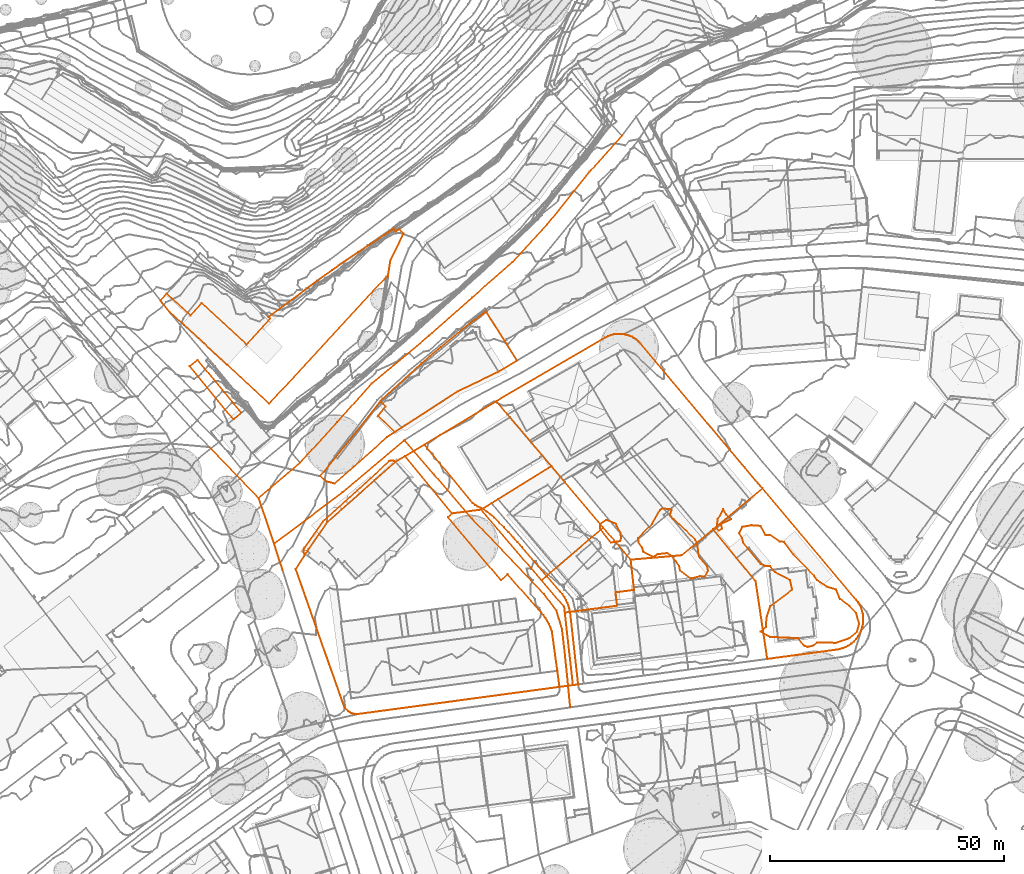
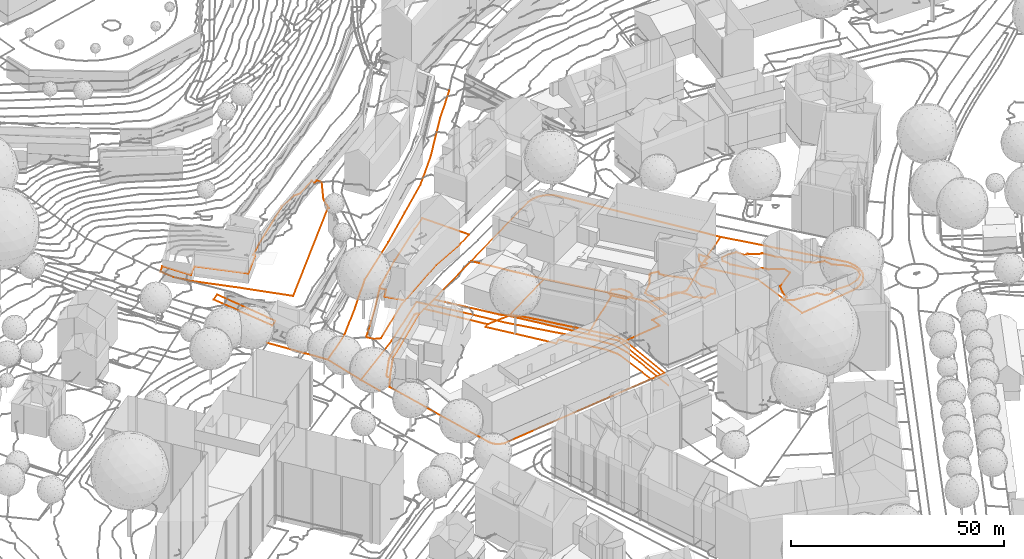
# Not in any storey, part 189 of 494: 23 proxies.
"""IFC2X3 model written with IfcOpenShell, lengths in metres."""

from ifc_helpers import new_model, entity, si_unit, frame, origin_with_axes, place, context, subcontext, project, element, save


model = new_model("IFC2X3")

# Units and contexts
model_context = context("Model", 3, precision=1e-05, world=origin_with_axes())
body_context = subcontext(model_context, "Body", "Model", "MODEL_VIEW")
ifc_project = project(units=[si_unit("AREAUNIT", "SQUARE_METRE"), si_unit("LENGTHUNIT", "METRE")], contexts=[model_context])

# Proxies
proxy_1_placement = place(None, frame((448.7407320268, 214.9587366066, 505.116), z_axis=(0.0, 0.0, 1.0), x_axis=(1.0, 0.0, 0.0)))
element("IfcBuildingElementProxy", 1, at=proxy_1_placement, Name="Road 91", ObjectType="NOTDEFINED", context=body_context, shape_type="GeometricCurveSet", body=[
    entity("IfcGeometricCurveSet", [entity("IfcPolyline", [entity("IfcCartesianPoint", [0.0, 0.0, 0.0]), entity("IfcCartesianPoint", [14.6459999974, 10.9769996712, -0.705]), entity("IfcCartesianPoint", [27.8619999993, 22.1369993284, -0.898])])]),
])
proxy_2_placement = place(None, frame((476.602732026, 237.095735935, 504.218), z_axis=(0.0, 0.0, 1.0), x_axis=(1.0, 0.0, 0.0)))
element("IfcBuildingElementProxy", 2, at=proxy_2_placement, Name="Road 94", ObjectType="NOTDEFINED", context=body_context, shape_type="GeometricCurveSet", body=[
    entity("IfcGeometricCurveSet", [entity("IfcPolyline", [entity("IfcCartesianPoint", [35.3889999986, -57.1219982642, -1.712]), entity("IfcCartesianPoint", [34.2149999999, -45.3749986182, -1.699]), entity("IfcCartesianPoint", [33.6279999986, -40.3819987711, -1.655]), entity("IfcCartesianPoint", [32.4529999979, -36.4169988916, -1.564]), entity("IfcCartesianPoint", [29.8090000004, -32.8919989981, -1.482]), entity("IfcCartesianPoint", [14.3900000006, -16.739999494, -0.77]), entity("IfcCartesianPoint", [6.3139999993, -7.3419997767, -0.204]), entity("IfcCartesianPoint", [0.0, 0.0, 0.0])])]),
])
proxy_3_placement = place(None, frame((434.9857320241, 235.5647359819, 508.106), z_axis=(0.0, 0.0, 1.0), x_axis=(1.0, 0.0, 0.0)))
element("IfcBuildingElementProxy", 3, at=proxy_3_placement, Name="Road 110", ObjectType="NOTDEFINED", context=body_context, shape_type="GeometricCurveSet", body=[
    entity("IfcGeometricCurveSet", [entity("IfcPolyline", [entity("IfcCartesianPoint", [0.0, 0.0, 0.0]), entity("IfcCartesianPoint", [10.4830000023, -10.8409996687, -1.99])])]),
])
proxy_4_placement = place(None, frame((454.2827320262, 232.2497360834, 505.514), z_axis=(0.0, 0.0, 1.0), x_axis=(1.0, 0.0, 0.0)))
element("IfcBuildingElementProxy", 4, at=proxy_4_placement, Name="Road 111", ObjectType="NOTDEFINED", context=body_context, shape_type="GeometricCurveSet", body=[
    entity("IfcGeometricCurveSet", [entity("IfcPolyline", [entity("IfcCartesianPoint", [0.0, 0.0, 0.0]), entity("IfcCartesianPoint", [7.9290000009, 8.6649997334, -0.151]), entity("IfcCartesianPoint", [15.2709999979, 16.8869994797, 0.331]), entity("IfcCartesianPoint", [27.6059999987, 27.1659991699, 0.497]), entity("IfcCartesianPoint", [36.7100000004, 35.2439989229, 0.844]), entity("IfcCartesianPoint", [45.3739999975, 42.8789986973, 1.187]), entity("IfcCartesianPoint", [52.7159999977, 50.8089984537, 1.844]), entity("IfcCartesianPoint", [61.8209999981, 62.1159981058, 2.804]), entity("IfcCartesianPoint", [68.7629999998, 69.8619978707, 3.602])])]),
])
proxy_5_placement = place(None, frame((448.7407320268, 214.9587366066, 505.116), z_axis=(0.0, 0.0, 1.0), x_axis=(1.0, 0.0, 0.0)))
element("IfcBuildingElementProxy", 5, at=proxy_5_placement, Name="Road 135", ObjectType="NOTDEFINED", context=body_context, shape_type="GeometricCurveSet", body=[
    entity("IfcGeometricCurveSet", [entity("IfcPolyline", [entity("IfcCartesianPoint", [0.0, 0.0, 0.0]), entity("IfcCartesianPoint", [1.8269999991, -5.6789998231, -0.308])])]),
])
proxy_6_placement = place(None, frame((445.4687320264, 224.7237363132, 506.116), z_axis=(0.0, 0.0, 1.0), x_axis=(1.0, 0.0, 0.0)))
element("IfcBuildingElementProxy", 6, at=proxy_6_placement, Name="Road 161", ObjectType="NOTDEFINED", context=body_context, shape_type="GeometricCurveSet", body=[
    entity("IfcGeometricCurveSet", [entity("IfcPolyline", [entity("IfcCartesianPoint", [0.0, 0.0, 0.0]), entity("IfcCartesianPoint", [3.2720000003, -9.7649997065, -1.0])])]),
])
proxy_7_placement = place(None, frame((445.4687320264, 224.7237363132, 506.116), z_axis=(0.0, 0.0, 1.0), x_axis=(1.0, 0.0, 0.0)))
element("IfcBuildingElementProxy", 7, at=proxy_7_placement, Name="Road 171", ObjectType="NOTDEFINED", context=body_context, shape_type="GeometricCurveSet", body=[
    entity("IfcGeometricCurveSet", [entity("IfcPolyline", [entity("IfcCartesianPoint", [0.0, 0.0, 0.0]), entity("IfcCartesianPoint", [8.8139999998, 7.5259997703, -0.602])])]),
])
proxy_8_placement = place(None, frame((424.4657320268, 266.9047160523, 513.1289780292), z_axis=(0.0, 0.0, 1.0), x_axis=(1.0, 0.0, 0.0)))
element("IfcBuildingElementProxy", 8, at=proxy_8_placement, Name="Roads Outline 72", ObjectType="NOTDEFINED", context=body_context, shape_type="GeometricCurveSet", body=[
    entity("IfcGeometricCurveSet", [entity("IfcPolyline", [entity("IfcCartesianPoint", [0.0, 0.0, 0.0]), entity("IfcCartesianPoint", [1.3109999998, 1.4140000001, 0.2332637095]), entity("IfcCartesianPoint", [6.3939999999, -3.2179999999, -1.3073714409]), entity("IfcCartesianPoint", [8.7999999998, -0.5769999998, -1.2514319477]), entity("IfcCartesianPoint", [18.3819999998, -9.4069999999, -1.2936431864]), entity("IfcCartesianPoint", [23.432, -3.9299999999, -1.1832163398]), entity("IfcCartesianPoint", [23.0689999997, -3.5899999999, -1.1790533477]), entity("IfcCartesianPoint", [23.216, -3.433, -1.1892130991]), entity("IfcCartesianPoint", [25.9779999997, -1.362, -0.1848330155]), entity("IfcCartesianPoint", [36.6229999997, 6.5180000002, 1.8596743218]), entity("IfcCartesianPoint", [42.216, 10.3400000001, 0.717073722]), entity("IfcCartesianPoint", [44.733, 11.9920000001, -0.5511322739]), entity("IfcCartesianPoint", [49.8369999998, 15.3030000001, -0.6807819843]), entity("IfcCartesianPoint", [50.2659999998, 14.6870000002, -1.1928311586]), entity("IfcCartesianPoint", [51.0959999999, 15.2650000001, -1.0383169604]), entity("IfcCartesianPoint", [51.9180000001, 14.2340000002, -1.1671433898]), entity("IfcCartesianPoint", [49.1299999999, 8.6170000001, -1.6400867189]), entity("IfcCartesianPoint", [48.73, 6.1830000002, -1.8383054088]), entity("IfcCartesianPoint", [48.5819999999, 5.0960000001, -1.984731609]), entity("IfcCartesianPoint", [48.3119999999, 5.1330000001, -1.8934868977]), entity("IfcCartesianPoint", [23.196, -22.0729999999, -1.7275991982]), entity("IfcCartesianPoint", [14.2549999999, -13.7509999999, -1.4039632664]), entity("IfcCartesianPoint", [5.0439999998, -5.264, -1.2292350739]), entity("IfcCartesianPoint", [2.0559999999, -2.632, -0.7227015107]), entity("IfcCartesianPoint", [0.0, 0.0, 0.0])])]),
])
proxy_9_placement = place(None, frame((458.5287320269, 229.3427160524, 505.1552135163), z_axis=(0.0, 0.0, 1.0), x_axis=(1.0, 0.0, 0.0)))
element("IfcBuildingElementProxy", 9, at=proxy_9_placement, Name="Roads Outline 87", ObjectType="NOTDEFINED", context=body_context, shape_type="GeometricCurveSet", body=[
    entity("IfcGeometricCurveSet", [entity("IfcPolyline", [entity("IfcCartesianPoint", [0.0, 0.0, 0.0]), entity("IfcCartesianPoint", [8.2289999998, 10.051, -0.4648052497]), entity("IfcCartesianPoint", [12.9269999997, 16.0160000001, -0.1523674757]), entity("IfcCartesianPoint", [13.1009999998, 15.845, -0.2159293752]), entity("IfcCartesianPoint", [14.0329999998, 14.9310000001, -0.3332706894]), entity("IfcCartesianPoint", [12.392, 12.8999999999, -0.5553334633]), entity("IfcCartesianPoint", [15.9019999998, 9.415, -0.7341274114]), entity("IfcCartesianPoint", [15.9179999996, 9.402, -0.7350810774]), entity("IfcCartesianPoint", [14.3879999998, 8.4110000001, -0.7262584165]), entity("IfcCartesianPoint", [3.1299999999, -1.53, -0.4365334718]), entity("IfcCartesianPoint", [1.4199999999, -1.1100000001, -0.3133147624]), entity("IfcCartesianPoint", [0.0, 0.0, 0.0])])]),
])
proxy_10_placement = place(None, frame((476.7267320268, 233.6337160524, 504.3167125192), z_axis=(0.0, 0.0, 1.0), x_axis=(1.0, 0.0, 0.0)))
element("IfcBuildingElementProxy", 10, at=proxy_10_placement, Name="Roads Outline 100", ObjectType="NOTDEFINED", context=body_context, shape_type="GeometricCurveSet", body=[
    entity("IfcGeometricCurveSet", [entity("IfcPolyline", [entity("IfcCartesianPoint", [0.0, 0.0, 0.0]), entity("IfcCartesianPoint", [4.1289999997, 2.497, -0.292827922]), entity("IfcCartesianPoint", [14.4410000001, -10.007, -0.5913579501]), entity("IfcCartesianPoint", [14.9279999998, -10.395, -0.6326985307]), entity("IfcCartesianPoint", [15.4539999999, -10.7279999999, -0.6861996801]), entity("IfcCartesianPoint", [16.0049999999, -10.9979999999, -0.7344786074]), entity("IfcCartesianPoint", [16.5819999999, -11.2069999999, -0.7762041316]), entity("IfcCartesianPoint", [17.4270000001, -11.824, -0.8344488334]), entity("IfcCartesianPoint", [18.2480000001, -12.4720000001, -0.8784889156]), entity("IfcCartesianPoint", [19.0439999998, -13.1499999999, -0.9256888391]), entity("IfcCartesianPoint", [20.077, -14.139, -1.0002924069]), entity("IfcCartesianPoint", [21.0860000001, -15.1510000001, -1.0653952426]), entity("IfcCartesianPoint", [22.1340000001, -16.254, -1.1199820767]), entity("IfcCartesianPoint", [23.1540000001, -17.3829999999, -1.1740386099]), entity("IfcCartesianPoint", [24.051, -18.3899999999, -1.2144240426]), entity("IfcCartesianPoint", [24.9440000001, -19.402, -1.2532145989]), entity("IfcCartesianPoint", [33.125, -28.8929999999, -1.4117132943]), entity("IfcCartesianPoint", [33.594, -29.4720000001, -1.4165436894]), entity("IfcCartesianPoint", [34.014, -30.088, -1.3941053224]), entity("IfcCartesianPoint", [34.3810000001, -30.737, -1.3969771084]), entity("IfcCartesianPoint", [34.6919999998, -31.4139999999, -1.4123003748]), entity("IfcCartesianPoint", [34.9249999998, -32.051, -1.4230467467]), entity("IfcCartesianPoint", [35.108, -32.7039999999, -1.4033383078]), entity("IfcCartesianPoint", [35.2409999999, -33.3699999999, -1.3973907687]), entity("IfcCartesianPoint", [35.3229999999, -34.0430000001, -1.402489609]), entity("IfcCartesianPoint", [36.963, -48.7309999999, -1.8208451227]), entity("IfcCartesianPoint", [35.8479999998, -48.8810000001, -1.8107088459]), entity("IfcCartesianPoint", [32.9789999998, -49.267, -1.8154554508]), entity("IfcCartesianPoint", [32.5090000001, -45.8289999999, -1.7085053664]), entity("IfcCartesianPoint", [31.3599999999, -37.423, -1.5420312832]), entity("IfcCartesianPoint", [31.077, -36.6310000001, -1.5378359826]), entity("IfcCartesianPoint", [30.7340000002, -35.8629999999, -1.504158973]), entity("IfcCartesianPoint", [30.3330000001, -35.1240000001, -1.4778762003]), entity("IfcCartesianPoint", [29.9529999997, -34.5289999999, -1.4408408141]), entity("IfcCartesianPoint", [29.5350000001, -33.959, -1.3751873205]), entity("IfcCartesianPoint", [29.0809999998, -33.4169999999, -1.3655782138]), entity("IfcCartesianPoint", [21.852, -25.1399999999, -1.1828002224]), entity("IfcCartesianPoint", [20.483, -26.5009999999, -1.0025992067]), entity("IfcCartesianPoint", [9.1459999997, -12.977, -0.5281850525]), entity("IfcCartesianPoint", [10.0600000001, -12.2109999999, -0.5338620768]), entity("IfcCartesianPoint", [0.0, 0.0, 0.0])])]),
])
proxy_11_placement = place(None, frame((455.0217320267, 213.3867160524, 504.8750382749), z_axis=(0.0, 0.0, 1.0), x_axis=(1.0, 0.0, 0.0)))
element("IfcBuildingElementProxy", 11, at=proxy_11_placement, Name="Roads Outline 116", ObjectType="NOTDEFINED", context=body_context, shape_type="GeometricCurveSet", body=[
    entity("IfcGeometricCurveSet", [entity("IfcPolyline", [entity("IfcCartesianPoint", [0.2510000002, 0.7779999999, 0.0120293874]), entity("IfcCartesianPoint", [4.1370000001, 6.281, -0.1732884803]), entity("IfcCartesianPoint", [5.0699999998, 7.1300000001, -0.1587436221]), entity("IfcCartesianPoint", [18.3140000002, 19.176, -0.4466604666]), entity("IfcCartesianPoint", [18.5720000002, 19.2879999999, -0.463864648]), entity("IfcCartesianPoint", [18.8489999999, 19.334, -0.4833213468]), entity("IfcCartesianPoint", [19.1299999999, 19.3130000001, -0.4992293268]), entity("IfcCartesianPoint", [19.3969999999, 19.2250000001, -0.5050567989]), entity("IfcCartesianPoint", [19.6350000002, 19.0760000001, -0.5102260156]), entity("IfcCartesianPoint", [5.088, 6.1459999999, -0.1912533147]), entity("IfcCartesianPoint", [1.1179999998, 0.456, -0.0410145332]), entity("IfcCartesianPoint", [0.8229999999, -0.004, -0.0382571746]), entity("IfcCartesianPoint", [0.3530000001, -0.737, -0.0430599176]), entity("IfcCartesianPoint", [0.1740000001, -0.524, -0.0273661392]), entity("IfcCartesianPoint", [0.054, -0.273, -0.0122569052]), entity("IfcCartesianPoint", [0.0, 0.0, 0.0]), entity("IfcCartesianPoint", [0.0159999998, 0.2779999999, 0.0098379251]), entity("IfcCartesianPoint", [0.102, 0.5430000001, 0.0124728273]), entity("IfcCartesianPoint", [0.2510000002, 0.7779999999, 0.0120293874])])]),
])
proxy_12_placement = place(None, frame((430.7407320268, 252.8337160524, 511.4348453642), z_axis=(0.0, 0.0, 1.0), x_axis=(1.0, 0.0, 0.0)))
element("IfcBuildingElementProxy", 12, at=proxy_12_placement, Name="Roads Outline 128", ObjectType="NOTDEFINED", context=body_context, shape_type="GeometricCurveSet", body=[
    entity("IfcGeometricCurveSet", [entity("IfcPolyline", [entity("IfcCartesianPoint", [0.0, 0.0, 0.0]), entity("IfcCartesianPoint", [1.7000000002, 1.3770000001, -0.0018458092]), entity("IfcCartesianPoint", [11.003, -9.9279999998, -3.9267590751]), entity("IfcCartesianPoint", [9.3100000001, -11.3149999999, -3.7715592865]), entity("IfcCartesianPoint", [0.0, 0.0, 0.0])])]),
])
proxy_13_placement = place(None, frame((458.5287320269, 229.3427160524, 505.1552135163), z_axis=(0.0, 0.0, 1.0), x_axis=(1.0, 0.0, 0.0)))
element("IfcBuildingElementProxy", 13, at=proxy_13_placement, Name="Cadastre 25", ObjectType="NOTDEFINED", context=body_context, shape_type="GeometricCurveSet", body=[
    entity("IfcGeometricCurveSet", [entity("IfcPolyline", [entity("IfcCartesianPoint", [0.0, 0.0, 0.0]), entity("IfcCartesianPoint", [8.2289999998, 10.051, -0.4648052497]), entity("IfcCartesianPoint", [13.3479999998, 16.551, -0.1006880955]), entity("IfcCartesianPoint", [21.6669999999, 24.1410000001, -0.1791210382]), entity("IfcCartesianPoint", [31.966, 32.642, -0.0445501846]), entity("IfcCartesianPoint", [35.5049999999, 35.202, 0.3450743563]), entity("IfcCartesianPoint", [42.1149999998, 24.7120000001, -0.3011217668]), entity("IfcCartesianPoint", [38.1749999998, 22.352, -0.410234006]), entity("IfcCartesianPoint", [29.3959999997, 18.1310000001, -0.5566785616]), entity("IfcCartesianPoint", [14.3879999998, 8.4110000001, -0.7262584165]), entity("IfcCartesianPoint", [3.1299999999, -1.53, -0.4365334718]), entity("IfcCartesianPoint", [1.4199999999, -1.1100000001, -0.3133147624]), entity("IfcCartesianPoint", [0.0, 0.0, 0.0])])]),
])
proxy_14_placement = place(None, frame((542.4707320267, 218.0357160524, 502.8601531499), z_axis=(0.0, 0.0, 1.0), x_axis=(1.0, 0.0, 0.0)))
element("IfcBuildingElementProxy", 14, at=proxy_14_placement, Name="Cadastre 126", ObjectType="NOTDEFINED", context=body_context, shape_type="GeometricCurveSet", body=[
    entity("IfcGeometricCurveSet", [entity("IfcPolyline", [entity("IfcCartesianPoint", [0.0, 0.0, 0.0]), entity("IfcCartesianPoint", [10.5490000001, 8.7409999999, -0.4954078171]), entity("IfcCartesianPoint", [30.5269999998, -14.9790000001, -0.1553959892]), entity("IfcCartesianPoint", [30.9569999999, -15.5379999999, -0.1788494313]), entity("IfcCartesianPoint", [31.324, -16.1399999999, -0.2273653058]), entity("IfcCartesianPoint", [31.6239999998, -16.7789999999, -0.264498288]), entity("IfcCartesianPoint", [31.8530000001, -17.446, -0.2781458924]), entity("IfcCartesianPoint", [32.0079999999, -18.1340000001, -0.3225082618]), entity("IfcCartesianPoint", [32.088, -18.834, -0.2992415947]), entity("IfcCartesianPoint", [32.091, -19.54, -0.2578709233]), entity("IfcCartesianPoint", [32.0180000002, -20.2409999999, -0.2501553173]), entity("IfcCartesianPoint", [31.8689999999, -20.9309999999, -0.2638760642]), entity("IfcCartesianPoint", [31.6469999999, -21.5999999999, -0.2901272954]), entity("IfcCartesianPoint", [31.3560000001, -22.2490000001, -0.3214982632]), entity("IfcCartesianPoint", [30.9959999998, -22.862, -0.3497163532]), entity("IfcCartesianPoint", [30.571, -23.432, -0.3775884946]), entity("IfcCartesianPoint", [30.0860000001, -23.953, -0.3975663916]), entity("IfcCartesianPoint", [29.5469999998, -24.4169999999, -0.4147447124]), entity("IfcCartesianPoint", [28.9610000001, -24.8200000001, -0.4188926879]), entity("IfcCartesianPoint", [28.3339999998, -25.156, -0.4317734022]), entity("IfcCartesianPoint", [27.6740000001, -25.422, -0.4700982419]), entity("IfcCartesianPoint", [26.9900000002, -25.6140000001, -0.4884692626]), entity("IfcCartesianPoint", [26.2880000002, -25.73, -0.4833078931]), entity("IfcCartesianPoint", [11.6090000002, -27.702, -0.5107292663]), entity("IfcCartesianPoint", [9.1090000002, -11.0800000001, -0.0637979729]), entity("IfcCartesianPoint", [0.0, 0.0, 0.0])])]),
])
proxy_15_placement = place(None, frame((496.2047320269, 245.4137160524, 504.028331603), z_axis=(0.0, 0.0, 1.0), x_axis=(1.0, 0.0, 0.0)))
element("IfcBuildingElementProxy", 15, at=proxy_15_placement, Name="Cadastre 132", ObjectType="NOTDEFINED", context=body_context, shape_type="GeometricCurveSet", body=[
    entity("IfcGeometricCurveSet", [entity("IfcPolyline", [entity("IfcCartesianPoint", [0.0, 0.0, 0.0]), entity("IfcCartesianPoint", [23.247, 13.5530000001, 0.4972766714]), entity("IfcCartesianPoint", [23.8619999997, 13.8600000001, 0.4908369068]), entity("IfcCartesianPoint", [24.5069999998, 14.094, 0.5237507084]), entity("IfcCartesianPoint", [25.1749999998, 14.253, 0.5303719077]), entity("IfcCartesianPoint", [25.8569999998, 14.335, 0.5216087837]), entity("IfcCartesianPoint", [26.5439999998, 14.338, 0.5071826]), entity("IfcCartesianPoint", [27.227, 14.263, 0.4966601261]), entity("IfcCartesianPoint", [27.8139999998, 14.1370000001, 0.4923443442]), entity("IfcCartesianPoint", [28.3849999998, 13.952, 0.4988006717]), entity("IfcCartesianPoint", [28.9359999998, 13.7120000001, 0.5136444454]), entity("IfcCartesianPoint", [29.4589999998, 13.4169999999, 0.4978977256]), entity("IfcCartesianPoint", [29.9499999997, 13.0719999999, 0.4778291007]), entity("IfcCartesianPoint", [30.4039999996, 12.679, 0.4214479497]), entity("IfcCartesianPoint", [30.8169999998, 12.243, 0.367827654]), entity("IfcCartesianPoint", [56.8149999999, -18.6370000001, -1.6635862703]), entity("IfcCartesianPoint", [46.2659999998, -27.378, -1.1681784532]), entity("IfcCartesianPoint", [39.557, -32.949, -2.2032414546]), entity("IfcCartesianPoint", [37.8169999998, -33.0989999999, -2.1250142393]), entity("IfcCartesianPoint", [28.6879999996, -33.8799999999, -1.1928501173]), entity("IfcCartesianPoint", [22.8479999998, -26.98, -0.9067412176]), entity("IfcCartesianPoint", [11.7489999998, -13.8699999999, -0.8419580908]), entity("IfcCartesianPoint", [0.0, 0.0, 0.0])])]),
])
proxy_16_placement = place(None, frame((453.3807320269, 209.5427160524, 504.7063221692), z_axis=(0.0, 0.0, 1.0), x_axis=(1.0, 0.0, 0.0)))
element("IfcBuildingElementProxy", 16, at=proxy_16_placement, Name="Cadastre 219", ObjectType="NOTDEFINED", context=body_context, shape_type="GeometricCurveSet", body=[
    entity("IfcGeometricCurveSet", [entity("IfcPolyline", [entity("IfcCartesianPoint", [0.0, 0.0, 0.0]), entity("IfcCartesianPoint", [2.7589999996, 4.3, 0.1277015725]), entity("IfcCartesianPoint", [6.7289999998, 9.99, -0.022537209]), entity("IfcCartesianPoint", [21.2760000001, 22.9200000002, -0.3415099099]), entity("IfcCartesianPoint", [23.3459999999, 24.091, -0.38960965]), entity("IfcCartesianPoint", [33.406, 11.8800000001, -0.9234717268]), entity("IfcCartesianPoint", [39.585, 12.6710000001, -1.1545868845]), entity("IfcCartesianPoint", [52.4739999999, -2.3899999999, -1.7930746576]), entity("IfcCartesianPoint", [57.3139999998, -8.05, -1.8520467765]), entity("IfcCartesianPoint", [57.4539999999, -9.3200000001, -1.8226173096]), entity("IfcCartesianPoint", [59.1939999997, -24.79, -2.2003184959]), entity("IfcCartesianPoint", [13.4199999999, -30.9509999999, -1.9028906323]), entity("IfcCartesianPoint", [13.0129999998, -30.9779999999, -1.8968056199]), entity("IfcCartesianPoint", [12.6059999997, -30.949, -1.8824767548]), entity("IfcCartesianPoint", [12.2069999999, -30.865, -1.8621369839]), entity("IfcCartesianPoint", [11.8219999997, -30.7290000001, -1.8418408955]), entity("IfcCartesianPoint", [11.46, -30.541, -1.8173063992]), entity("IfcCartesianPoint", [11.1259999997, -30.3059999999, -1.7912716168]), entity("IfcCartesianPoint", [10.827, -30.0279999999, -1.7642444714]), entity("IfcCartesianPoint", [10.568, -29.713, -1.7573956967]), entity("IfcCartesianPoint", [10.3539999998, -29.365, -1.7543245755]), entity("IfcCartesianPoint", [10.1899999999, -28.9909999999, -1.7367296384]), entity("IfcCartesianPoint", [0.0, 0.0, 0.0])])]),
])
proxy_17_placement = place(None, frame((476.7267320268, 233.6337160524, 504.3167125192), z_axis=(0.0, 0.0, 1.0), x_axis=(1.0, 0.0, 0.0)))
element("IfcBuildingElementProxy", 17, at=proxy_17_placement, Name="Cadastre 220", ObjectType="NOTDEFINED", context=body_context, shape_type="GeometricCurveSet", body=[
    entity("IfcGeometricCurveSet", [entity("IfcPolyline", [entity("IfcCartesianPoint", [0.0, 0.0, 0.0]), entity("IfcCartesianPoint", [19.4780000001, 11.78, -0.2883809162]), entity("IfcCartesianPoint", [31.227, -2.0899999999, -1.130339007]), entity("IfcCartesianPoint", [16.2390000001, -11.4199999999, -0.7649772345]), entity("IfcCartesianPoint", [10.0600000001, -12.2109999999, -0.5338620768]), entity("IfcCartesianPoint", [0.0, 0.0, 0.0])])]),
])
proxy_18_placement = place(None, frame((492.9657320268, 222.2137160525, 503.5517352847), z_axis=(0.0, 0.0, 1.0), x_axis=(1.0, 0.0, 0.0)))
element("IfcBuildingElementProxy", 18, at=proxy_18_placement, Name="Cadastre 221", ObjectType="NOTDEFINED", context=body_context, shape_type="GeometricCurveSet", body=[
    entity("IfcGeometricCurveSet", [entity("IfcPolyline", [entity("IfcCartesianPoint", [0.0, 0.0, 0.0]), entity("IfcCartesianPoint", [14.9879999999, 9.3300000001, -0.3653617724]), entity("IfcCartesianPoint", [26.0869999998, -3.78, -0.4301448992]), entity("IfcCartesianPoint", [23.0839999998, -6.3460000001, -0.5323837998]), entity("IfcCartesianPoint", [16.1039999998, -12.3120000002, -0.3851160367]), entity("IfcCartesianPoint", [12.889, -15.061, -0.6384877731]), entity("IfcCartesianPoint", [0.0, 0.0, 0.0])])]),
])
proxy_19_placement = place(None, frame((505.8547320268, 207.1527160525, 502.9132475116), z_axis=(0.0, 0.0, 1.0), x_axis=(1.0, 0.0, 0.0)))
element("IfcBuildingElementProxy", 19, at=proxy_19_placement, Name="Cadastre 223", ObjectType="NOTDEFINED", context=body_context, shape_type="GeometricCurveSet", body=[
    entity("IfcGeometricCurveSet", [entity("IfcPolyline", [entity("IfcCartesianPoint", [0.0, 0.0, 0.0]), entity("IfcCartesianPoint", [3.2149999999, 2.7489999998, 0.2533717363]), entity("IfcCartesianPoint", [10.1949999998, 8.7149999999, 0.1061039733]), entity("IfcCartesianPoint", [13.1979999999, 11.281, 0.2083428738]), entity("IfcCartesianPoint", [19.0379999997, 4.3810000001, -0.0777660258]), entity("IfcCartesianPoint", [19.702, -1.5720000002, 0.1355640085]), entity("IfcCartesianPoint", [19.7579999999, -2.0790000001, 0.1428473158]), entity("IfcCartesianPoint", [15.7779999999, -2.5990000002, 0.1602520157]), entity("IfcCartesianPoint", [16.148, -5.459, 0.1858381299]), entity("IfcCartesianPoint", [8.6770000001, -6.443, 0.1039184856]), entity("IfcCartesianPoint", [4.98, -6.9300000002, -0.029542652]), entity("IfcCartesianPoint", [4.8399999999, -5.6600000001, -0.0589721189]), entity("IfcCartesianPoint", [0.0, 0.0, 0.0])])]),
])
proxy_20_placement = place(None, frame((543.2464719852, 218.1707160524, 503.0), z_axis=(0.0, 0.0, 1.0), x_axis=(1.0, 0.0, 0.0)))
element("IfcBuildingElementProxy", 20, at=proxy_20_placement, Name="Contour Line 503.0 m", ObjectType="NOTDEFINED", context=body_context, shape_type="GeometricCurveSet", body=[
    entity("IfcGeometricCurveSet", [entity("IfcPolyline", [entity("IfcCartesianPoint", [1.1663930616, 0.0, 0.0]), entity("IfcCartesianPoint", [0.4312600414, -0.4301739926, 0.0]), entity("IfcCartesianPoint", [0.0, 0.0, 0.0]), entity("IfcCartesianPoint", [0.2388157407, 2.0, 0.0]), entity("IfcCartesianPoint", [1.4312600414, 4.1641586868, 0.0]), entity("IfcCartesianPoint", [2.0221691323, 3.0, 0.0]), entity("IfcCartesianPoint", [3.0456893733, 2.0, 0.0]), entity("IfcCartesianPoint", [0.932272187, 1.0, 0.0]), entity("IfcCartesianPoint", [1.1663930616, 0.0, 0.0])])]),
])
proxy_21_placement = place(None, frame((518.3501119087, 218.1707160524, 503.0), z_axis=(0.0, 0.0, 1.0), x_axis=(1.0, 0.0, 0.0)))
element("IfcBuildingElementProxy", 21, at=proxy_21_placement, Name="Contour Line 503.0 m", ObjectType="NOTDEFINED", context=body_context, shape_type="GeometricCurveSet", body=[
    entity("IfcGeometricCurveSet", [entity("IfcPolyline", [entity("IfcCartesianPoint", [4.4637269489, -2.0, 0.0]), entity("IfcCartesianPoint", [4.3276201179, -2.6777493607, 0.0]), entity("IfcCartesianPoint", [2.3276201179, -2.9648648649, 0.0]), entity("IfcCartesianPoint", [0.0, 0.0, 0.0]), entity("IfcCartesianPoint", [0.0540809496, 1.0, 0.0]), entity("IfcCartesianPoint", [1.3276201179, 1.8620268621, 0.0]), entity("IfcCartesianPoint", [3.3757657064, 1.0, 0.0]), entity("IfcCartesianPoint", [4.4175166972, -1.0, 0.0]), entity("IfcCartesianPoint", [4.4637269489, -2.0, 0.0])])]),
])
proxy_22_placement = place(None, frame((526.4708464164, 216.1707160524, 502.0), z_axis=(0.0, 0.0, 1.0), x_axis=(1.0, 0.0, 0.0)))
element("IfcBuildingElementProxy", 22, at=proxy_22_placement, Name="Contour Line 502.0 m", ObjectType="NOTDEFINED", context=body_context, shape_type="GeometricCurveSet", body=[
    entity("IfcGeometricCurveSet", [entity("IfcPolyline", [entity("IfcCartesianPoint", [14.2068856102, -8.2948350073, 0.0]), entity("IfcCartesianPoint", [14.9547072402, -7.0, 0.0]), entity("IfcCartesianPoint", [14.7338110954, -6.0, 0.0]), entity("IfcCartesianPoint", [13.0132880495, -4.0, 0.0]), entity("IfcCartesianPoint", [12.5926716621, -1.0, 0.0]), entity("IfcCartesianPoint", [12.2068856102, -0.3261935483, 0.0]), entity("IfcCartesianPoint", [7.5722022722, 4.0, 0.0]), entity("IfcCartesianPoint", [6.8481513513, 5.0, 0.0]), entity("IfcCartesianPoint", [7.2068856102, 6.0515919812, 0.0]), entity("IfcCartesianPoint", [5.2068856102, 6.3155555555, 0.0]), entity("IfcCartesianPoint", [4.6624070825, 6.0, 0.0]), entity("IfcCartesianPoint", [2.9471422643, 3.0, 0.0]), entity("IfcCartesianPoint", [0.0, 0.0, 0.0]), entity("IfcCartesianPoint", [0.1491223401, -1.0, 0.0]), entity("IfcCartesianPoint", [0.8584567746, -2.0, 0.0]), entity("IfcCartesianPoint", [1.1331151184, -3.0, 0.0]), entity("IfcCartesianPoint", [3.2068856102, -4.027059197, 0.0]), entity("IfcCartesianPoint", [4.2068856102, -3.4585700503, 0.0]), entity("IfcCartesianPoint", [6.2068856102, -3.2401256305, 0.0]), entity("IfcCartesianPoint", [7.2068856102, -3.8791622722, 0.0]), entity("IfcCartesianPoint", [8.105531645, -5.0, 0.0]), entity("IfcCartesianPoint", [8.7811977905, -6.0, 0.0]), entity("IfcCartesianPoint", [8.9940520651, -7.0, 0.0]), entity("IfcCartesianPoint", [11.2068856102, -8.6973103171, 0.0]), entity("IfcCartesianPoint", [13.2068856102, -8.1630009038, 0.0]), entity("IfcCartesianPoint", [14.2068856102, -8.2948350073, 0.0])])]),
])
proxy_23_placement = place(None, frame((548.0660815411, 217.1707160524, 503.0), z_axis=(0.0, 0.0, 1.0), x_axis=(1.0, 0.0, 0.0)))
element("IfcBuildingElementProxy", 23, at=proxy_23_placement, Name="Contour Line 503.0 m", ObjectType="NOTDEFINED", context=body_context, shape_type="GeometricCurveSet", body=[
    entity("IfcGeometricCurveSet", [entity("IfcPolyline", [entity("IfcCartesianPoint", [15.7854856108, -24.0, 0.0]), entity("IfcCartesianPoint", [14.6116504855, -24.2638247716, 0.0]), entity("IfcCartesianPoint", [13.8324221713, -24.0, 0.0]), entity("IfcCartesianPoint", [12.6116504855, -22.3932892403, 0.0]), entity("IfcCartesianPoint", [6.6116504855, -22.154270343, 0.0]), entity("IfcCartesianPoint", [4.5346592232, -21.0, 0.0]), entity("IfcCartesianPoint", [5.7242718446, -20.0, 0.0]), entity("IfcCartesianPoint", [5.8368641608, -18.0, 0.0]), entity("IfcCartesianPoint", [6.6116504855, -15.5973509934, 0.0]), entity("IfcCartesianPoint", [11.3351287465, -12.0, 0.0]), entity("IfcCartesianPoint", [10.8551287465, -10.0, 0.0]), entity("IfcCartesianPoint", [7.6116504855, -8.2752525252, 0.0]), entity("IfcCartesianPoint", [6.6116504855, -6.9967880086, 0.0]), entity("IfcCartesianPoint", [5.6116504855, -6.9820574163, 0.0]), entity("IfcCartesianPoint", [4.6116504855, -6.5533399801, 0.0]), entity("IfcCartesianPoint", [0.8497064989, -2.0, 0.0]), entity("IfcCartesianPoint", [0.6413861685, -1.0, 0.0]), entity("IfcCartesianPoint", [0.0, 0.0, 0.0]), entity("IfcCartesianPoint", [0.6116504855, 1.3698630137, 0.0]), entity("IfcCartesianPoint", [2.6116504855, 1.714987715, 0.0]), entity("IfcCartesianPoint", [4.6116504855, 1.5628227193, 0.0]), entity("IfcCartesianPoint", [5.6116504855, -0.3345829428, 0.0]), entity("IfcCartesianPoint", [6.6116504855, -0.3593830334, 0.0]), entity("IfcCartesianPoint", [8.6116504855, -1.7348798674, 0.0]), entity("IfcCartesianPoint", [9.6116504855, -1.8505251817, 0.0]), entity("IfcCartesianPoint", [11.6116504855, -4.5172297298, 0.0]), entity("IfcCartesianPoint", [15.9896710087, -9.0, 0.0]), entity("IfcCartesianPoint", [16.6116504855, -10.014837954, 0.0]), entity("IfcCartesianPoint", [18.6116504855, -11.3942307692, 0.0]), entity("IfcCartesianPoint", [20.7252671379, -12.0, 0.0]), entity("IfcCartesianPoint", [21.4972520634, -14.0, 0.0]), entity("IfcCartesianPoint", [23.6116504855, -15.5498188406, 0.0]), entity("IfcCartesianPoint", [25.0012583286, -17.0, 0.0]), entity("IfcCartesianPoint", [25.6116504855, -19.326214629, 0.0]), entity("IfcCartesianPoint", [25.1654979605, -21.0, 0.0]), entity("IfcCartesianPoint", [23.6116504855, -22.368895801, 0.0]), entity("IfcCartesianPoint", [20.6116504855, -23.4064041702, 0.0]), entity("IfcCartesianPoint", [16.6116504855, -23.3121969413, 0.0]), entity("IfcCartesianPoint", [15.7854856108, -24.0, 0.0])])]),
])

save(model, "model.ifc")
